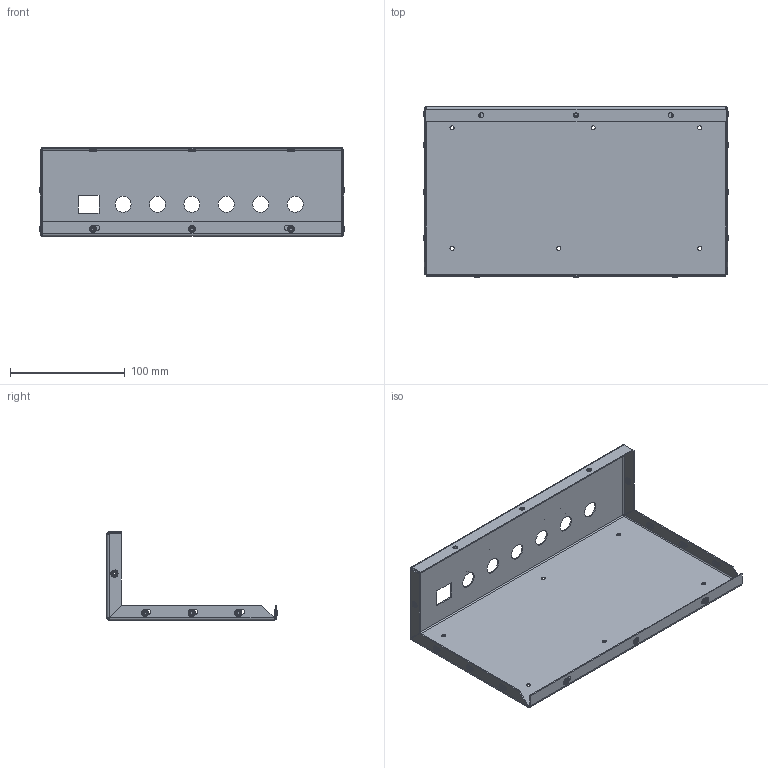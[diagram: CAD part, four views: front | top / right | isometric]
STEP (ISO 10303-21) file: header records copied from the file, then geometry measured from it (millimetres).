
FILE_DESCRIPTION(/* description */ ('STEP AP242 Edition 2','CAx-IF Rec.Pracs.---Representation and Presentation of Product Manufacturing Information (PMI)---4.0---2014-10-13','CAx-IF Rec.Pracs.---3D Tessellated Geometry---0.4---2014-09-14','2;1','CAx-IF Rec.Pracs.---User Defined Attributes---1.5---2016-08-15'),/* implementation_level */ '2;1');
FILE_NAME(/* name */ '6a56e01e19d56f0f029563b0',/* time_stamp */ '2026-07-15T01:19:27Z',/* author */ (''),/* organization */ (''),/* preprocessor_version */ 'ST-DEVELOPER v20',/* originating_system */ 'ONSHAPE BY PTC INC, 1.217',/* authorisation */ ' ');
FILE_SCHEMA (('AP242_MANAGED_MODEL_BASED_3D_ENGINEERING_MIM_LF { 1 0 10303 442 3 1 4 }'));
Length unit declared in the file: metre
Products named in the file (3): Telemetry Box Base with Press Fit Nuts; 95185A530_Zinc-Plated Steel Press-Fit Nut for Sheet Metal; Part 2
Assembly tree (15 placements, depth 2):
  Telemetry Box Base with Press Fit Nuts
    95185A530_Zinc-Plated Steel Press-Fit Nut for Sheet Metal  x14
    Part 2
Bounding box: 266.1 x 148.57 x 77.22 mm (x, y, z)
Volume: 69611.6 mm3; surface area: 139174.3 mm2
Topology: 15 solids, 15 shells, 1756 faces, 5606 edges, 3966 vertices
Faces by surface type: plane 848, cylinder 768, cone 84, torus 28, bspline 28
Full cylindrical faces by diameter (mm): 3.6 x6, 4.2 x14, 4.318 x14, 6.35 x14, 13.97 x6
Entity records: 15337 total; most frequent: CARTESIAN_POINT 4402, ORIENTED_EDGE 2598, DIRECTION 1639, EDGE_CURVE 1299, VERTEX_POINT 1125, LINE 643, VECTOR 643, AXIS2_PLACEMENT_3D 498
